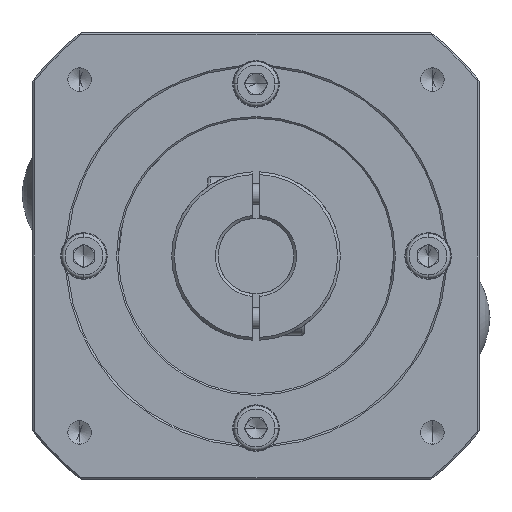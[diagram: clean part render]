
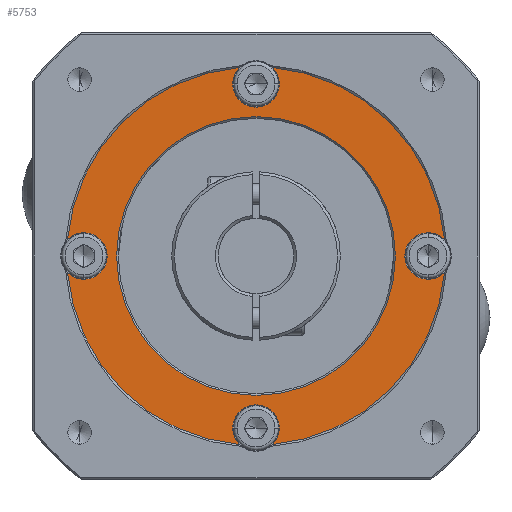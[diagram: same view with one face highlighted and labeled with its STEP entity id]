
A CAD part, left-side view. The second image highlights one B-rep face of the part: STEP entity #5753.
In plain terms, the highlighted planar face has unit normal (-1, 0, 0) as drawn and (0, 0, 1) by its records, which use the part's own axes.
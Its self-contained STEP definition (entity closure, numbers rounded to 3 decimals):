
#57 = DIRECTION ( 'NONE',  ( 0., 0., 1. ) ) ;
#75 = FACE_OUTER_BOUND ( 'NONE', #10203, .T. ) ;
#166 = CIRCLE ( 'NONE', #8311, 6.75 ) ;
#301 = AXIS2_PLACEMENT_3D ( 'NONE', #4649, #10470, #5490 ) ;
#302 = ORIENTED_EDGE ( 'NONE', *, *, #1112, .T. ) ;
#362 = AXIS2_PLACEMENT_3D ( 'NONE', #1199, #7007, #2050 ) ;
#368 = ORIENTED_EDGE ( 'NONE', *, *, #7940, .T. ) ;
#397 = ORIENTED_EDGE ( 'NONE', *, *, #1036, .T. ) ;
#531 = CARTESIAN_POINT ( 'NONE',  ( 0., 0., 66. ) ) ;
#571 = EDGE_CURVE ( 'NONE', #10495, #9783, #5336, .T. ) ;
#574 = ORIENTED_EDGE ( 'NONE', *, *, #1449, .T. ) ;
#656 = DIRECTION ( 'NONE',  ( 1., 0., 0. ) ) ;
#727 = CARTESIAN_POINT ( 'NONE',  ( -40.5, 0., 66. ) ) ;
#729 = VERTEX_POINT ( 'NONE', #881 ) ;
#735 = AXIS2_PLACEMENT_3D ( 'NONE', #9776, #4797, #10629 ) ;
#811 = AXIS2_PLACEMENT_3D ( 'NONE', #9957, #4967, #8451 ) ;
#843 = CARTESIAN_POINT ( 'NONE',  ( 0., 50., 66. ) ) ;
#881 = CARTESIAN_POINT ( 'NONE',  ( -54.794, 4.751, 66. ) ) ;
#897 = ORIENTED_EDGE ( 'NONE', *, *, #8773, .T. ) ;
#901 = EDGE_CURVE ( 'NONE', #4872, #10572, #5196, .T. ) ;
#945 = AXIS2_PLACEMENT_3D ( 'NONE', #4040, #9858, #4870 ) ;
#1024 = CIRCLE ( 'NONE', #735, 6.75 ) ;
#1036 = EDGE_CURVE ( 'NONE', #8927, #8998, #10263, .T. ) ;
#1112 = EDGE_CURVE ( 'NONE', #10608, #7610, #9739, .T. ) ;
#1199 = CARTESIAN_POINT ( 'NONE',  ( 0., 0., 66. ) ) ;
#1241 = CARTESIAN_POINT ( 'NONE',  ( 0., 0., 66. ) ) ;
#1365 = DIRECTION ( 'NONE',  ( 1., 0., 0. ) ) ;
#1449 = EDGE_CURVE ( 'NONE', #5033, #6048, #1024, .T. ) ;
#1525 = CARTESIAN_POINT ( 'NONE',  ( 43.25, 0., 66. ) ) ;
#1688 = DIRECTION ( 'NONE',  ( 1., 0., 0. ) ) ;
#1709 = AXIS2_PLACEMENT_3D ( 'NONE', #6932, #1978, #7788 ) ;
#1896 = CARTESIAN_POINT ( 'NONE',  ( 0., 0., 66. ) ) ;
#1902 = ORIENTED_EDGE ( 'NONE', *, *, #5885, .T. ) ;
#1978 = DIRECTION ( 'NONE',  ( 0., 0., -1. ) ) ;
#2050 = DIRECTION ( 'NONE',  ( 1., 0., 0. ) ) ;
#2188 = ORIENTED_EDGE ( 'NONE', *, *, #3753, .T. ) ;
#2218 = CARTESIAN_POINT ( 'NONE',  ( -4.751, -54.794, 66. ) ) ;
#2224 = CARTESIAN_POINT ( 'NONE',  ( -6.75, -50., 66. ) ) ;
#2272 = ORIENTED_EDGE ( 'NONE', *, *, #7651, .T. ) ;
#2397 = DIRECTION ( 'NONE',  ( 0., 0., -1. ) ) ;
#2413 = AXIS2_PLACEMENT_3D ( 'NONE', #5045, #57, #5865 ) ;
#2441 = VERTEX_POINT ( 'NONE', #2218 ) ;
#2511 = CIRCLE ( 'NONE', #362, 40.5 ) ;
#2544 = EDGE_CURVE ( 'NONE', #7154, #8927, #4994, .T. ) ;
#2606 = EDGE_CURVE ( 'NONE', #8998, #4872, #6406, .T. ) ;
#2710 = ORIENTED_EDGE ( 'NONE', *, *, #2544, .T. ) ;
#2719 = DIRECTION ( 'NONE',  ( 0., 0., 1. ) ) ;
#2734 = DIRECTION ( 'NONE',  ( 1., 0., 0. ) ) ;
#2790 = AXIS2_PLACEMENT_3D ( 'NONE', #1896, #7708, #2734 ) ;
#2873 = AXIS2_PLACEMENT_3D ( 'NONE', #1241, #8721, #3751 ) ;
#2972 = AXIS2_PLACEMENT_3D ( 'NONE', #9869, #4882, #10701 ) ;
#3009 = EDGE_CURVE ( 'NONE', #6048, #10505, #4336, .T. ) ;
#3028 = CIRCLE ( 'NONE', #4441, 55. ) ;
#3450 = CARTESIAN_POINT ( 'NONE',  ( 0., -50., 66. ) ) ;
#3452 = EDGE_CURVE ( 'NONE', #9783, #729, #9526, .T. ) ;
#3751 = DIRECTION ( 'NONE',  ( 1., 0., 0. ) ) ;
#3753 = EDGE_CURVE ( 'NONE', #7610, #2441, #3028, .T. ) ;
#3761 = CIRCLE ( 'NONE', #2413, 55. ) ;
#4040 = CARTESIAN_POINT ( 'NONE',  ( -50., 0., 66. ) ) ;
#4107 = CARTESIAN_POINT ( 'NONE',  ( 0., -50., 66. ) ) ;
#4282 = DIRECTION ( 'NONE',  ( 1., 0., 0. ) ) ;
#4336 = CIRCLE ( 'NONE', #6173, 6.75 ) ;
#4356 = ORIENTED_EDGE ( 'NONE', *, *, #3009, .T. ) ;
#4429 = ORIENTED_EDGE ( 'NONE', *, *, #4444, .T. ) ;
#4441 = AXIS2_PLACEMENT_3D ( 'NONE', #7690, #2719, #8523 ) ;
#4444 = EDGE_CURVE ( 'NONE', #4756, #10483, #6055, .T. ) ;
#4649 = CARTESIAN_POINT ( 'NONE',  ( -50., 0., 66. ) ) ;
#4652 = AXIS2_PLACEMENT_3D ( 'NONE', #531, #6339, #1365 ) ;
#4756 = VERTEX_POINT ( 'NONE', #727 ) ;
#4797 = DIRECTION ( 'NONE',  ( 0., 0., -1. ) ) ;
#4814 = CIRCLE ( 'NONE', #301, 6.75 ) ;
#4870 = DIRECTION ( 'NONE',  ( 1., 0., 0. ) ) ;
#4872 = VERTEX_POINT ( 'NONE', #8580 ) ;
#4882 = DIRECTION ( 'NONE',  ( 0., 0., -1. ) ) ;
#4944 = DIRECTION ( 'NONE',  ( 1., 0., 0. ) ) ;
#4967 = DIRECTION ( 'NONE',  ( 0., 0., 1. ) ) ;
#4994 = CIRCLE ( 'NONE', #7715, 6.75 ) ;
#5033 = VERTEX_POINT ( 'NONE', #2224 ) ;
#5045 = CARTESIAN_POINT ( 'NONE',  ( 0., 0., 66. ) ) ;
#5196 = CIRCLE ( 'NONE', #1709, 6.75 ) ;
#5336 = CIRCLE ( 'NONE', #2972, 6.75 ) ;
#5490 = DIRECTION ( 'NONE',  ( 1., 0., 0. ) ) ;
#5634 = DIRECTION ( 'NONE',  ( 0., 0., -1. ) ) ;
#5684 = CARTESIAN_POINT ( 'NONE',  ( 40.5, 0., 66. ) ) ;
#5753 = ADVANCED_FACE ( 'NONE', ( #6694, #75 ), #7040, .T. ) ;
#5865 = DIRECTION ( 'NONE',  ( 1., 0., 0. ) ) ;
#5885 = EDGE_CURVE ( 'NONE', #2441, #5033, #9300, .T. ) ;
#5947 = CARTESIAN_POINT ( 'NONE',  ( 6.75, -50., 66. ) ) ;
#6048 = VERTEX_POINT ( 'NONE', #5947 ) ;
#6055 = CIRCLE ( 'NONE', #2790, 40.5 ) ;
#6169 = ORIENTED_EDGE ( 'NONE', *, *, #2606, .T. ) ;
#6173 = AXIS2_PLACEMENT_3D ( 'NONE', #3450, #9248, #4282 ) ;
#6339 = DIRECTION ( 'NONE',  ( 0., 0., 1. ) ) ;
#6406 = CIRCLE ( 'NONE', #811, 55. ) ;
#6546 = CARTESIAN_POINT ( 'NONE',  ( 4.751, -54.794, 66. ) ) ;
#6562 = CARTESIAN_POINT ( 'NONE',  ( 54.794, 4.751, 66. ) ) ;
#6575 = CARTESIAN_POINT ( 'NONE',  ( -54.794, -4.751, 66. ) ) ;
#6645 = DIRECTION ( 'NONE',  ( 0., 0., -1. ) ) ;
#6694 = FACE_BOUND ( 'NONE', #7123, .T. ) ;
#6910 = ORIENTED_EDGE ( 'NONE', *, *, #571, .T. ) ;
#6932 = CARTESIAN_POINT ( 'NONE',  ( 0., 50., 66. ) ) ;
#7007 = DIRECTION ( 'NONE',  ( 0., 0., -1. ) ) ;
#7040 = PLANE ( 'NONE',  #2873 ) ;
#7123 = EDGE_LOOP ( 'NONE', ( #368, #4429 ) ) ;
#7154 = VERTEX_POINT ( 'NONE', #10128 ) ;
#7367 = CARTESIAN_POINT ( 'NONE',  ( 50., 0., 66. ) ) ;
#7501 = CARTESIAN_POINT ( 'NONE',  ( -43.25, 0., 66. ) ) ;
#7610 = VERTEX_POINT ( 'NONE', #6575 ) ;
#7651 = EDGE_CURVE ( 'NONE', #10572, #10495, #166, .T. ) ;
#7690 = CARTESIAN_POINT ( 'NONE',  ( 0., 0., 66. ) ) ;
#7708 = DIRECTION ( 'NONE',  ( 0., 0., -1. ) ) ;
#7715 = AXIS2_PLACEMENT_3D ( 'NONE', #7367, #2397, #8203 ) ;
#7788 = DIRECTION ( 'NONE',  ( 1., 0., 0. ) ) ;
#7883 = AXIS2_PLACEMENT_3D ( 'NONE', #4107, #9928, #4944 ) ;
#7940 = EDGE_CURVE ( 'NONE', #10483, #4756, #2511, .T. ) ;
#8014 = ORIENTED_EDGE ( 'NONE', *, *, #3452, .T. ) ;
#8199 = CARTESIAN_POINT ( 'NONE',  ( -6.75, 50., 66. ) ) ;
#8203 = DIRECTION ( 'NONE',  ( 1., 0., 0. ) ) ;
#8303 = CARTESIAN_POINT ( 'NONE',  ( 6.75, 50., 66. ) ) ;
#8311 = AXIS2_PLACEMENT_3D ( 'NONE', #843, #6645, #1688 ) ;
#8451 = DIRECTION ( 'NONE',  ( 1., 0., 0. ) ) ;
#8523 = DIRECTION ( 'NONE',  ( 1., 0., 0. ) ) ;
#8580 = CARTESIAN_POINT ( 'NONE',  ( 4.751, 54.794, 66. ) ) ;
#8721 = DIRECTION ( 'NONE',  ( 0., 0., 1. ) ) ;
#8773 = EDGE_CURVE ( 'NONE', #729, #10608, #4814, .T. ) ;
#8927 = VERTEX_POINT ( 'NONE', #1525 ) ;
#8998 = VERTEX_POINT ( 'NONE', #6562 ) ;
#9154 = ORIENTED_EDGE ( 'NONE', *, *, #10036, .T. ) ;
#9248 = DIRECTION ( 'NONE',  ( 0., 0., -1. ) ) ;
#9300 = CIRCLE ( 'NONE', #7883, 6.75 ) ;
#9526 = CIRCLE ( 'NONE', #4652, 55. ) ;
#9550 = CARTESIAN_POINT ( 'NONE',  ( -4.751, 54.794, 66. ) ) ;
#9739 = CIRCLE ( 'NONE', #945, 6.75 ) ;
#9776 = CARTESIAN_POINT ( 'NONE',  ( 0., -50., 66. ) ) ;
#9783 = VERTEX_POINT ( 'NONE', #9550 ) ;
#9858 = DIRECTION ( 'NONE',  ( 0., 0., -1. ) ) ;
#9869 = CARTESIAN_POINT ( 'NONE',  ( 0., 50., 66. ) ) ;
#9928 = DIRECTION ( 'NONE',  ( 0., 0., -1. ) ) ;
#9957 = CARTESIAN_POINT ( 'NONE',  ( 0., 0., 66. ) ) ;
#10036 = EDGE_CURVE ( 'NONE', #10505, #7154, #3761, .T. ) ;
#10075 = AXIS2_PLACEMENT_3D ( 'NONE', #10627, #5634, #656 ) ;
#10128 = CARTESIAN_POINT ( 'NONE',  ( 54.794, -4.751, 66. ) ) ;
#10203 = EDGE_LOOP ( 'NONE', ( #10481, #2272, #6910, #8014, #897, #302, #2188, #1902, #574, #4356, #9154, #2710, #397, #6169 ) ) ;
#10263 = CIRCLE ( 'NONE', #10075, 6.75 ) ;
#10470 = DIRECTION ( 'NONE',  ( 0., 0., -1. ) ) ;
#10481 = ORIENTED_EDGE ( 'NONE', *, *, #901, .T. ) ;
#10483 = VERTEX_POINT ( 'NONE', #5684 ) ;
#10495 = VERTEX_POINT ( 'NONE', #8199 ) ;
#10505 = VERTEX_POINT ( 'NONE', #6546 ) ;
#10572 = VERTEX_POINT ( 'NONE', #8303 ) ;
#10608 = VERTEX_POINT ( 'NONE', #7501 ) ;
#10627 = CARTESIAN_POINT ( 'NONE',  ( 50., 0., 66. ) ) ;
#10629 = DIRECTION ( 'NONE',  ( 1., 0., 0. ) ) ;
#10701 = DIRECTION ( 'NONE',  ( 1., 0., 0. ) ) ;
